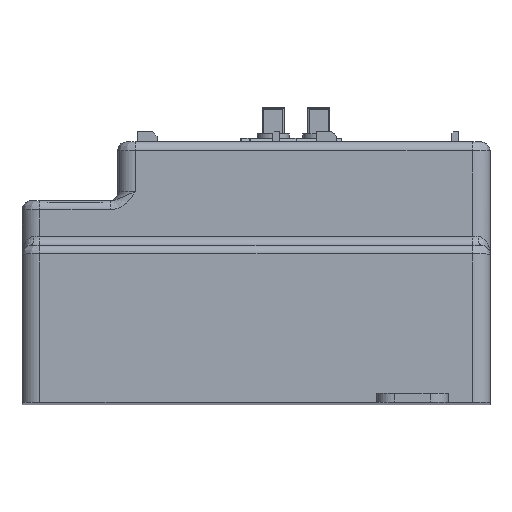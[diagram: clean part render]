
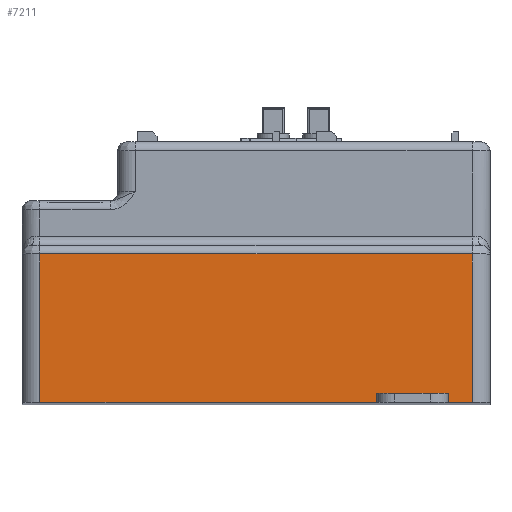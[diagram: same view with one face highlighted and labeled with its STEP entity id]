
A CAD part, top view. The second image highlights one B-rep face of the part: STEP entity #7211.
In plain terms, the highlighted planar face has unit normal (0, 0, 1).
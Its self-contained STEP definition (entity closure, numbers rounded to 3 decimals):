
#1869=FACE_OUTER_BOUND('',#18227,.T.);
#7211=ADVANCED_FACE('',(#1869),#12784,.F.);
#12784=PLANE('',#106293);
#18227=EDGE_LOOP('',(#50158,#50159,#50160,#50161,#50162,#50163,#50164,#50165,
#50166,#50167,#50168,#50169));
#24372=LINE('',#139875,#37140);
#24374=LINE('',#139892,#37142);
#24378=LINE('',#139905,#37146);
#24419=LINE('',#140053,#37187);
#24457=LINE('',#140416,#37225);
#24458=LINE('',#140418,#37226);
#24459=LINE('',#140420,#37227);
#24460=LINE('',#140421,#37228);
#24461=LINE('',#140423,#37229);
#24462=LINE('',#140425,#37230);
#24463=LINE('',#140426,#37231);
#24464=LINE('',#140427,#37232);
#37140=VECTOR('',#113215,1.);
#37142=VECTOR('',#113231,1.);
#37146=VECTOR('',#113239,1.);
#37187=VECTOR('',#113334,1.);
#37225=VECTOR('',#113466,1.);
#37226=VECTOR('',#113467,1.);
#37227=VECTOR('',#113468,1.);
#37228=VECTOR('',#113469,1.);
#37229=VECTOR('',#113470,1.);
#37230=VECTOR('',#113471,1.);
#37231=VECTOR('',#113472,1.);
#37232=VECTOR('',#113473,1.);
#50158=ORIENTED_EDGE('',*,*,#89655,.F.);
#50159=ORIENTED_EDGE('',*,*,#89785,.T.);
#50160=ORIENTED_EDGE('',*,*,#89786,.T.);
#50161=ORIENTED_EDGE('',*,*,#89787,.T.);
#50162=ORIENTED_EDGE('',*,*,#89640,.F.);
#50163=ORIENTED_EDGE('',*,*,#89788,.T.);
#50164=ORIENTED_EDGE('',*,*,#89789,.T.);
#50165=ORIENTED_EDGE('',*,*,#89790,.T.);
#50166=ORIENTED_EDGE('',*,*,#89649,.F.);
#50167=ORIENTED_EDGE('',*,*,#89791,.F.);
#50168=ORIENTED_EDGE('',*,*,#89719,.F.);
#50169=ORIENTED_EDGE('',*,*,#89792,.T.);
#79954=VERTEX_POINT('',#139873);
#79956=VERTEX_POINT('',#139876);
#79964=VERTEX_POINT('',#139893);
#79965=VERTEX_POINT('',#139894);
#79970=VERTEX_POINT('',#139904);
#79971=VERTEX_POINT('',#139906);
#80030=VERTEX_POINT('',#140052);
#80031=VERTEX_POINT('',#140054);
#80058=VERTEX_POINT('',#140417);
#80059=VERTEX_POINT('',#140419);
#80060=VERTEX_POINT('',#140422);
#80061=VERTEX_POINT('',#140424);
#89640=EDGE_CURVE('',#79954,#79956,#24372,.T.);
#89649=EDGE_CURVE('',#79964,#79965,#24374,.T.);
#89655=EDGE_CURVE('',#79970,#79971,#24378,.T.);
#89719=EDGE_CURVE('',#80030,#80031,#24419,.T.);
#89785=EDGE_CURVE('',#79970,#80058,#24457,.T.);
#89786=EDGE_CURVE('',#80058,#80059,#24458,.T.);
#89787=EDGE_CURVE('',#80059,#79956,#24459,.T.);
#89788=EDGE_CURVE('',#79954,#80060,#24460,.T.);
#89789=EDGE_CURVE('',#80060,#80061,#24461,.T.);
#89790=EDGE_CURVE('',#80061,#79965,#24462,.T.);
#89791=EDGE_CURVE('',#80031,#79964,#24463,.T.);
#89792=EDGE_CURVE('',#80030,#79971,#24464,.T.);
#106293=AXIS2_PLACEMENT_3D('',#140428,#113474,#113475);
#113215=DIRECTION('',(-1.,0.,0.));
#113231=DIRECTION('',(-1.,0.,0.));
#113239=DIRECTION('',(-1.,0.,0.));
#113334=DIRECTION('',(1.,0.,0.));
#113466=DIRECTION('',(0.,1.,0.));
#113467=DIRECTION('',(1.,0.,0.));
#113468=DIRECTION('',(0.,-1.,0.));
#113469=DIRECTION('',(0.,1.,0.));
#113470=DIRECTION('',(1.,0.,0.));
#113471=DIRECTION('',(0.,-1.,0.));
#113472=DIRECTION('',(0.,-1.,0.));
#113473=DIRECTION('',(0.,-1.,0.));
#113474=DIRECTION('',(0.,0.,-1.));
#113475=DIRECTION('',(1.,0.,0.));
#139873=CARTESIAN_POINT('',(461.785,150.642,457.238));
#139875=CARTESIAN_POINT('',(465.412,150.642,457.238));
#139876=CARTESIAN_POINT('',(458.038,150.642,457.238));
#139892=CARTESIAN_POINT('',(465.412,150.642,457.238));
#139893=CARTESIAN_POINT('',(466.612,150.642,457.238));
#139894=CARTESIAN_POINT('',(463.912,150.642,457.238));
#139904=CARTESIAN_POINT('',(455.912,150.642,457.238));
#139905=CARTESIAN_POINT('',(465.412,150.642,457.238));
#139906=CARTESIAN_POINT('',(418.212,150.642,457.238));
#140052=CARTESIAN_POINT('',(418.212,167.242,457.238));
#140053=CARTESIAN_POINT('',(419.412,167.242,457.238));
#140054=CARTESIAN_POINT('',(466.612,167.242,457.238));
#140416=CARTESIAN_POINT('',(455.912,168.242,457.238));
#140417=CARTESIAN_POINT('',(455.912,151.642,457.238));
#140418=CARTESIAN_POINT('',(467.412,151.642,457.238));
#140419=CARTESIAN_POINT('',(458.038,151.642,457.238));
#140420=CARTESIAN_POINT('',(458.038,150.642,457.238));
#140421=CARTESIAN_POINT('',(461.785,150.642,457.238));
#140422=CARTESIAN_POINT('',(461.785,151.642,457.238));
#140423=CARTESIAN_POINT('',(467.412,151.642,457.238));
#140424=CARTESIAN_POINT('',(463.912,151.642,457.238));
#140425=CARTESIAN_POINT('',(463.912,168.242,457.238));
#140426=CARTESIAN_POINT('',(466.612,167.242,457.238));
#140427=CARTESIAN_POINT('',(418.212,168.242,457.238));
#140428=CARTESIAN_POINT('',(467.412,168.242,457.238));
